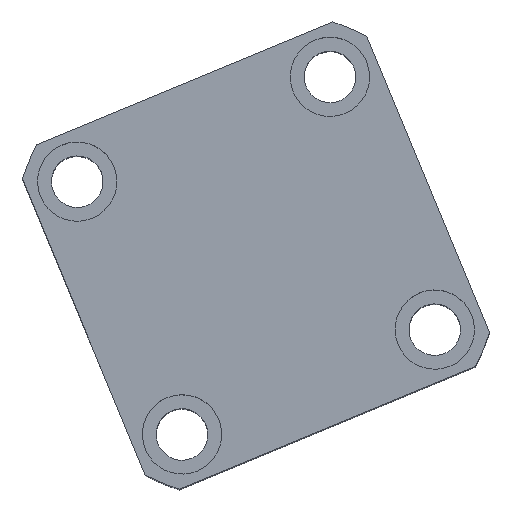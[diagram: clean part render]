
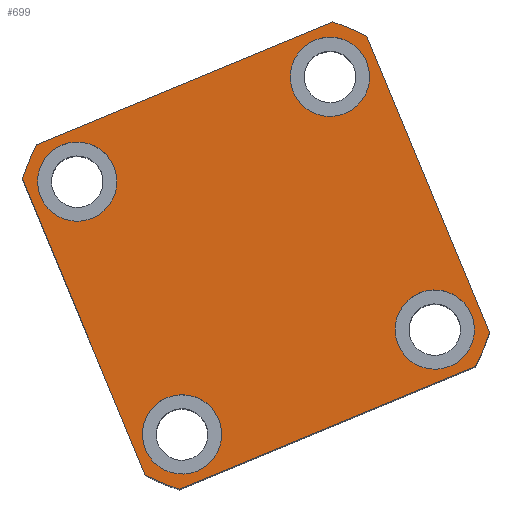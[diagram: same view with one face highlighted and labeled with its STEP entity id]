
A CAD part, top view. The second image highlights one B-rep face of the part: STEP entity #699.
In plain terms, the highlighted planar face has unit normal (0, 0, 1) as drawn and (0, 0, -1) by its records, which use the part's own axes.
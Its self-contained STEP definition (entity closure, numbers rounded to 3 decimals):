
#27 = VERTEX_POINT ( 'NONE', #10432 ) ;
#90 = EDGE_CURVE ( 'NONE', #10521, #17020, #14012, .T. ) ;
#159 = LINE ( 'NONE', #15172, #9789 ) ;
#235 = DIRECTION ( 'NONE',  ( 0., 0., -1. ) ) ;
#284 = AXIS2_PLACEMENT_3D ( 'NONE', #8753, #20844, #10489 ) ;
#384 = DIRECTION ( 'NONE',  ( 0., 0., -1. ) ) ;
#394 = AXIS2_PLACEMENT_3D ( 'NONE', #9339, #21426, #11074 ) ;
#524 = AXIS2_PLACEMENT_3D ( 'NONE', #10712, #384, #12429 ) ;
#693 = VERTEX_POINT ( 'NONE', #4390 ) ;
#699 = ADVANCED_FACE ( 'NONE', ( #10825, #2198, #6210, #1644, #15347 ), #4460, .F. ) ;
#726 = CARTESIAN_POINT ( 'NONE',  ( 47., 40.435, 0. ) ) ;
#873 = ORIENTED_EDGE ( 'NONE', *, *, #10751, .F. ) ;
#1396 = ORIENTED_EDGE ( 'NONE', *, *, #90, .F. ) ;
#1644 = FACE_BOUND ( 'NONE', #14403, .T. ) ;
#1667 = CIRCLE ( 'NONE', #524, 10. ) ;
#1932 = ORIENTED_EDGE ( 'NONE', *, *, #14370, .F. ) ;
#2078 = DIRECTION ( 'NONE',  ( 0., 0., -1. ) ) ;
#2198 = FACE_BOUND ( 'NONE', #6554, .T. ) ;
#2502 = ORIENTED_EDGE ( 'NONE', *, *, #8298, .F. ) ;
#2691 = CIRCLE ( 'NONE', #14558, 62. ) ;
#3019 = ORIENTED_EDGE ( 'NONE', *, *, #16716, .F. ) ;
#3043 = CIRCLE ( 'NONE', #394, 10. ) ;
#3171 = DIRECTION ( 'NONE',  ( 1., 0., 0. ) ) ;
#3395 = DIRECTION ( 'NONE',  ( 1., 0., 0. ) ) ;
#3609 = DIRECTION ( 'NONE',  ( 0., 0., -1. ) ) ;
#3804 = VERTEX_POINT ( 'NONE', #18043 ) ;
#3954 = CIRCLE ( 'NONE', #8287, 10. ) ;
#4096 = DIRECTION ( 'NONE',  ( 0., 0., -1. ) ) ;
#4390 = CARTESIAN_POINT ( 'NONE',  ( 47., -40.435, 0. ) ) ;
#4460 = PLANE ( 'NONE',  #16946 ) ;
#4599 = DIRECTION ( 'NONE',  ( 0., 0., 1. ) ) ;
#4711 = EDGE_LOOP ( 'NONE', ( #1932, #3019 ) ) ;
#4892 = DIRECTION ( 'NONE',  ( 0., -1., 0. ) ) ;
#4916 = AXIS2_PLACEMENT_3D ( 'NONE', #10574, #235, #12294 ) ;
#5001 = DIRECTION ( 'NONE',  ( 0., 0., 1. ) ) ;
#5060 = ORIENTED_EDGE ( 'NONE', *, *, #5926, .F. ) ;
#5086 = CIRCLE ( 'NONE', #4916, 10. ) ;
#5184 = CARTESIAN_POINT ( 'NONE',  ( -40.435, 47., 0. ) ) ;
#5191 = CARTESIAN_POINT ( 'NONE',  ( 0., 0., 0. ) ) ;
#5433 = ORIENTED_EDGE ( 'NONE', *, *, #22319, .F. ) ;
#5608 = ORIENTED_EDGE ( 'NONE', *, *, #6885, .F. ) ;
#5926 = EDGE_CURVE ( 'NONE', #15181, #8411, #16431, .T. ) ;
#6201 = VERTEX_POINT ( 'NONE', #22227 ) ;
#6210 = FACE_BOUND ( 'NONE', #8748, .T. ) ;
#6554 = EDGE_LOOP ( 'NONE', ( #15097, #873 ) ) ;
#6568 = CARTESIAN_POINT ( 'NONE',  ( 40.435, 47., 0. ) ) ;
#6746 = VECTOR ( 'NONE', #3171, 1000. ) ;
#6885 = EDGE_CURVE ( 'NONE', #8411, #693, #21370, .T. ) ;
#7544 = CARTESIAN_POINT ( 'NONE',  ( -47., 40.435, 0. ) ) ;
#7688 = CARTESIAN_POINT ( 'NONE',  ( 24.5, 34.5, 0. ) ) ;
#7713 = LINE ( 'NONE', #16910, #20950 ) ;
#7748 = LINE ( 'NONE', #11555, #11796 ) ;
#7888 = CARTESIAN_POINT ( 'NONE',  ( -34.5, 34.5, 0. ) ) ;
#8009 = ORIENTED_EDGE ( 'NONE', *, *, #14957, .F. ) ;
#8287 = AXIS2_PLACEMENT_3D ( 'NONE', #14382, #4096, #16107 ) ;
#8288 = ORIENTED_EDGE ( 'NONE', *, *, #22212, .F. ) ;
#8298 = EDGE_CURVE ( 'NONE', #8397, #3804, #11071, .T. ) ;
#8396 = DIRECTION ( 'NONE',  ( -1., 0., 0. ) ) ;
#8397 = VERTEX_POINT ( 'NONE', #21858 ) ;
#8411 = VERTEX_POINT ( 'NONE', #16665 ) ;
#8557 = ORIENTED_EDGE ( 'NONE', *, *, #21974, .F. ) ;
#8748 = EDGE_LOOP ( 'NONE', ( #5433, #2502 ) ) ;
#8753 = CARTESIAN_POINT ( 'NONE',  ( 0., 0., 0. ) ) ;
#8850 = EDGE_CURVE ( 'NONE', #21692, #27, #9444, .T. ) ;
#9008 = CARTESIAN_POINT ( 'NONE',  ( 0., 0., 0. ) ) ;
#9339 = CARTESIAN_POINT ( 'NONE',  ( 34.5, -34.5, 0. ) ) ;
#9408 = ORIENTED_EDGE ( 'NONE', *, *, #9494, .F. ) ;
#9444 = CIRCLE ( 'NONE', #20540, 10. ) ;
#9494 = EDGE_CURVE ( 'NONE', #21955, #15111, #7748, .T. ) ;
#9636 = DIRECTION ( 'NONE',  ( -1., 0., 0. ) ) ;
#9789 = VECTOR ( 'NONE', #4892, 1000. ) ;
#10110 = CARTESIAN_POINT ( 'NONE',  ( 0., 0., 0. ) ) ;
#10432 = CARTESIAN_POINT ( 'NONE',  ( -24.5, -34.5, 0. ) ) ;
#10489 = DIRECTION ( 'NONE',  ( 1., 0., 0. ) ) ;
#10511 = DIRECTION ( 'NONE',  ( 0., 0., -1. ) ) ;
#10521 = VERTEX_POINT ( 'NONE', #7688 ) ;
#10574 = CARTESIAN_POINT ( 'NONE',  ( -34.5, 34.5, 0. ) ) ;
#10712 = CARTESIAN_POINT ( 'NONE',  ( 34.5, 34.5, 0. ) ) ;
#10751 = EDGE_CURVE ( 'NONE', #27, #21692, #17404, .T. ) ;
#10753 = DIRECTION ( 'NONE',  ( 1., 0., 0. ) ) ;
#10825 = FACE_BOUND ( 'NONE', #4711, .T. ) ;
#11071 = CIRCLE ( 'NONE', #20980, 10. ) ;
#11074 = DIRECTION ( 'NONE',  ( -1., 0., 0. ) ) ;
#11555 = CARTESIAN_POINT ( 'NONE',  ( -47., 47., 0. ) ) ;
#11758 = CARTESIAN_POINT ( 'NONE',  ( -47., -47., 0. ) ) ;
#11796 = VECTOR ( 'NONE', #20162, 1000. ) ;
#11864 = DIRECTION ( 'NONE',  ( 1., 0., 0. ) ) ;
#12183 = ORIENTED_EDGE ( 'NONE', *, *, #17674, .F. ) ;
#12294 = DIRECTION ( 'NONE',  ( -1., 0., 0. ) ) ;
#12398 = CARTESIAN_POINT ( 'NONE',  ( -34.5, -34.5, 0. ) ) ;
#12429 = DIRECTION ( 'NONE',  ( -1., 0., 0. ) ) ;
#12568 = EDGE_CURVE ( 'NONE', #693, #13192, #7713, .T. ) ;
#12808 = AXIS2_PLACEMENT_3D ( 'NONE', #17038, #10511, #8396 ) ;
#13192 = VERTEX_POINT ( 'NONE', #726 ) ;
#13326 = CARTESIAN_POINT ( 'NONE',  ( 44.5, 34.5, 0. ) ) ;
#13537 = CIRCLE ( 'NONE', #21366, 62. ) ;
#13569 = VERTEX_POINT ( 'NONE', #7544 ) ;
#13684 = AXIS2_PLACEMENT_3D ( 'NONE', #15282, #5001, #17024 ) ;
#13890 = CARTESIAN_POINT ( 'NONE',  ( -34.5, -34.5, 0. ) ) ;
#14012 = CIRCLE ( 'NONE', #12808, 10. ) ;
#14101 = DIRECTION ( 'NONE',  ( -1., 0., 0. ) ) ;
#14264 = CARTESIAN_POINT ( 'NONE',  ( 24.5, -34.5, 0. ) ) ;
#14370 = EDGE_CURVE ( 'NONE', #18668, #15875, #3954, .T. ) ;
#14382 = CARTESIAN_POINT ( 'NONE',  ( 34.5, -34.5, 0. ) ) ;
#14403 = EDGE_LOOP ( 'NONE', ( #1396, #12183 ) ) ;
#14558 = AXIS2_PLACEMENT_3D ( 'NONE', #10110, #22210, #11864 ) ;
#14957 = EDGE_CURVE ( 'NONE', #13569, #6201, #159, .T. ) ;
#15097 = ORIENTED_EDGE ( 'NONE', *, *, #8850, .F. ) ;
#15111 = VERTEX_POINT ( 'NONE', #5184 ) ;
#15172 = CARTESIAN_POINT ( 'NONE',  ( -47., 47., 0. ) ) ;
#15181 = VERTEX_POINT ( 'NONE', #20737 ) ;
#15282 = CARTESIAN_POINT ( 'NONE',  ( 0., 0., 0. ) ) ;
#15347 = FACE_OUTER_BOUND ( 'NONE', #22260, .T. ) ;
#15627 = DIRECTION ( 'NONE',  ( -1., 0., 0. ) ) ;
#15798 = EDGE_CURVE ( 'NONE', #13192, #21955, #13537, .T. ) ;
#15875 = VERTEX_POINT ( 'NONE', #17653 ) ;
#16107 = DIRECTION ( 'NONE',  ( -1., 0., 0. ) ) ;
#16158 = AXIS2_PLACEMENT_3D ( 'NONE', #13890, #3609, #15627 ) ;
#16431 = LINE ( 'NONE', #11758, #6746 ) ;
#16665 = CARTESIAN_POINT ( 'NONE',  ( 40.435, -47., 0. ) ) ;
#16716 = EDGE_CURVE ( 'NONE', #15875, #18668, #3043, .T. ) ;
#16910 = CARTESIAN_POINT ( 'NONE',  ( 47., 47., 0. ) ) ;
#16946 = AXIS2_PLACEMENT_3D ( 'NONE', #5191, #4599, #3395 ) ;
#17020 = VERTEX_POINT ( 'NONE', #13326 ) ;
#17024 = DIRECTION ( 'NONE',  ( 1., 0., 0. ) ) ;
#17038 = CARTESIAN_POINT ( 'NONE',  ( 34.5, 34.5, 0. ) ) ;
#17404 = CIRCLE ( 'NONE', #16158, 10. ) ;
#17653 = CARTESIAN_POINT ( 'NONE',  ( 44.5, -34.5, 0. ) ) ;
#17674 = EDGE_CURVE ( 'NONE', #17020, #10521, #1667, .T. ) ;
#18043 = CARTESIAN_POINT ( 'NONE',  ( -44.5, 34.5, 0. ) ) ;
#18097 = ORIENTED_EDGE ( 'NONE', *, *, #15798, .F. ) ;
#18667 = DIRECTION ( 'NONE',  ( 0., 1., 0. ) ) ;
#18668 = VERTEX_POINT ( 'NONE', #14264 ) ;
#18845 = CIRCLE ( 'NONE', #284, 62. ) ;
#19764 = ORIENTED_EDGE ( 'NONE', *, *, #12568, .F. ) ;
#19975 = DIRECTION ( 'NONE',  ( 0., 0., -1. ) ) ;
#20162 = DIRECTION ( 'NONE',  ( -1., 0., 0. ) ) ;
#20540 = AXIS2_PLACEMENT_3D ( 'NONE', #12398, #2078, #14101 ) ;
#20737 = CARTESIAN_POINT ( 'NONE',  ( -40.435, -47., 0. ) ) ;
#20844 = DIRECTION ( 'NONE',  ( 0., 0., 1. ) ) ;
#20950 = VECTOR ( 'NONE', #18667, 1000. ) ;
#20980 = AXIS2_PLACEMENT_3D ( 'NONE', #7888, #19975, #9636 ) ;
#21098 = DIRECTION ( 'NONE',  ( 0., 0., 1. ) ) ;
#21366 = AXIS2_PLACEMENT_3D ( 'NONE', #9008, #21098, #10753 ) ;
#21370 = CIRCLE ( 'NONE', #13684, 62. ) ;
#21426 = DIRECTION ( 'NONE',  ( 0., 0., -1. ) ) ;
#21631 = CARTESIAN_POINT ( 'NONE',  ( -44.5, -34.5, 0. ) ) ;
#21692 = VERTEX_POINT ( 'NONE', #21631 ) ;
#21858 = CARTESIAN_POINT ( 'NONE',  ( -24.5, 34.5, 0. ) ) ;
#21955 = VERTEX_POINT ( 'NONE', #6568 ) ;
#21974 = EDGE_CURVE ( 'NONE', #15111, #13569, #2691, .T. ) ;
#22210 = DIRECTION ( 'NONE',  ( 0., 0., 1. ) ) ;
#22212 = EDGE_CURVE ( 'NONE', #6201, #15181, #18845, .T. ) ;
#22227 = CARTESIAN_POINT ( 'NONE',  ( -47., -40.435, 0. ) ) ;
#22260 = EDGE_LOOP ( 'NONE', ( #18097, #19764, #5608, #5060, #8288, #8009, #8557, #9408 ) ) ;
#22319 = EDGE_CURVE ( 'NONE', #3804, #8397, #5086, .T. ) ;
